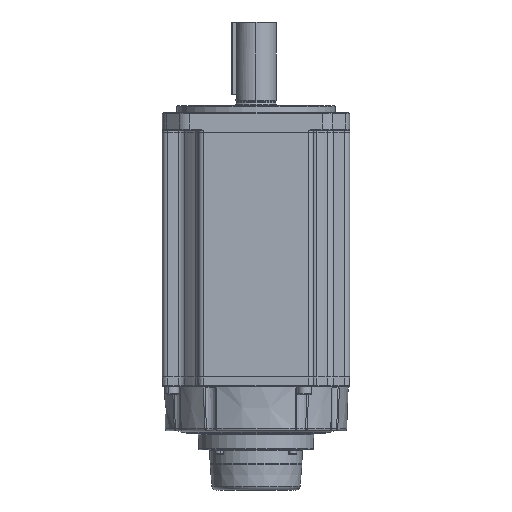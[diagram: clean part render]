
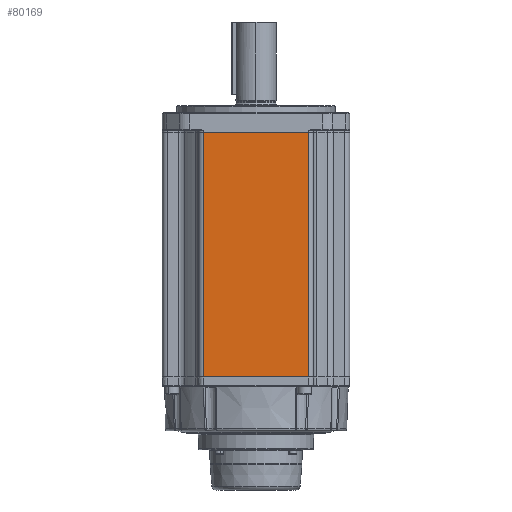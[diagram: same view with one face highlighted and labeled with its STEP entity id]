
A CAD part, front view. The second image highlights one B-rep face of the part: STEP entity #80169.
In plain terms, the highlighted planar face has unit normal (0, -1, 0).
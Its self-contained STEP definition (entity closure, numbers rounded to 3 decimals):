
#2060 = VERTEX_POINT ( 'NONE', #66650 ) ;
#5034 = VERTEX_POINT ( 'NONE', #31885 ) ;
#6821 = DIRECTION ( 'NONE',  ( 0., 0., -1. ) ) ;
#11033 = CARTESIAN_POINT ( 'NONE',  ( 0., -65., 0. ) ) ;
#11648 = DIRECTION ( 'NONE',  ( -1., 0., 0. ) ) ;
#12169 = EDGE_CURVE ( 'NONE', #90798, #5034, #45457, .T. ) ;
#17973 = CARTESIAN_POINT ( 'NONE',  ( -36.401, -65., 169.4 ) ) ;
#19511 = VECTOR ( 'NONE', #60019, 1000. ) ;
#23227 = PLANE ( 'NONE',  #27690 ) ;
#26819 = DIRECTION ( 'NONE',  ( 0., 0., -1. ) ) ;
#27690 = AXIS2_PLACEMENT_3D ( 'NONE', #53476, #115495, #41944 ) ;
#30856 = EDGE_CURVE ( 'NONE', #41523, #5034, #74495, .T. ) ;
#31885 = CARTESIAN_POINT ( 'NONE',  ( -36.401, -65., 0. ) ) ;
#34523 = VECTOR ( 'NONE', #11648, 1000. ) ;
#41523 = VERTEX_POINT ( 'NONE', #118615 ) ;
#41944 = DIRECTION ( 'NONE',  ( 0., 0., -1. ) ) ;
#42856 = ORIENTED_EDGE ( 'NONE', *, *, #117810, .T. ) ;
#42988 = VECTOR ( 'NONE', #6821, 1000. ) ;
#44246 = CARTESIAN_POINT ( 'NONE',  ( -36.401, -65., 169.4 ) ) ;
#44274 = VECTOR ( 'NONE', #26819, 1000. ) ;
#45457 = LINE ( 'NONE', #44246, #42988 ) ;
#51727 = ORIENTED_EDGE ( 'NONE', *, *, #53515, .F. ) ;
#53476 = CARTESIAN_POINT ( 'NONE',  ( 0., -65., 169.4 ) ) ;
#53515 = EDGE_CURVE ( 'NONE', #2060, #41523, #91317, .T. ) ;
#60019 = DIRECTION ( 'NONE',  ( -1., 0., 0. ) ) ;
#66650 = CARTESIAN_POINT ( 'NONE',  ( 36.401, -65., 169.4 ) ) ;
#69219 = FACE_OUTER_BOUND ( 'NONE', #87194, .T. ) ;
#73687 = ORIENTED_EDGE ( 'NONE', *, *, #12169, .T. ) ;
#74495 = LINE ( 'NONE', #11033, #34523 ) ;
#80169 = ADVANCED_FACE ( 'NONE', ( #69219 ), #23227, .T. ) ;
#87194 = EDGE_LOOP ( 'NONE', ( #99525, #51727, #42856, #73687 ) ) ;
#87640 = LINE ( 'NONE', #107538, #19511 ) ;
#90798 = VERTEX_POINT ( 'NONE', #17973 ) ;
#91317 = LINE ( 'NONE', #109433, #44274 ) ;
#99525 = ORIENTED_EDGE ( 'NONE', *, *, #30856, .F. ) ;
#107538 = CARTESIAN_POINT ( 'NONE',  ( 0., -65., 169.4 ) ) ;
#109433 = CARTESIAN_POINT ( 'NONE',  ( 36.401, -65., 169.4 ) ) ;
#115495 = DIRECTION ( 'NONE',  ( 0., -1., 0. ) ) ;
#117810 = EDGE_CURVE ( 'NONE', #2060, #90798, #87640, .T. ) ;
#118615 = CARTESIAN_POINT ( 'NONE',  ( 36.401, -65., 0. ) ) ;
